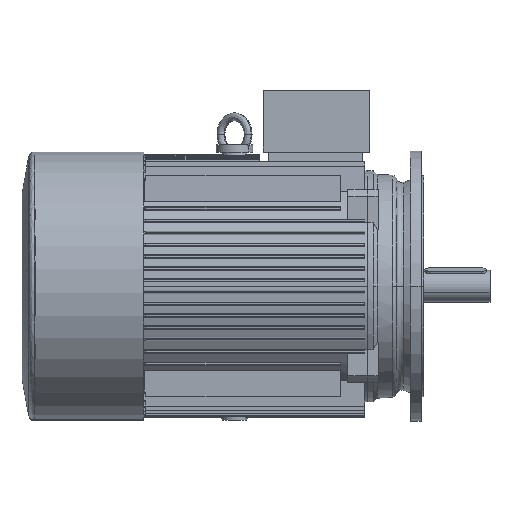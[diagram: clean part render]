
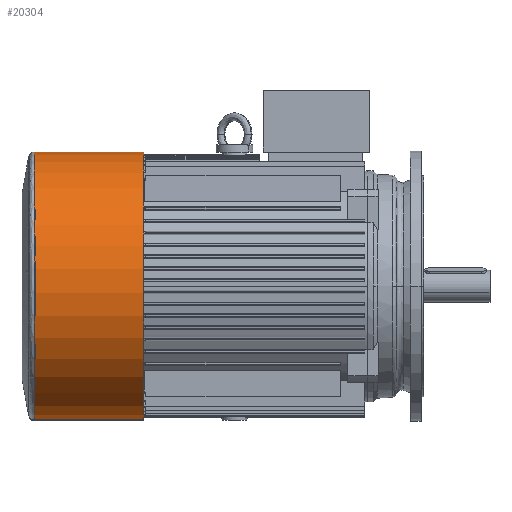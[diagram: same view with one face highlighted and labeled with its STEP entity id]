
A CAD part, top view. The second image highlights one B-rep face of the part: STEP entity #20304.
In plain terms, the highlighted cylindrical face has radius 273.5 mm (diameter 547 mm), a partial arc.
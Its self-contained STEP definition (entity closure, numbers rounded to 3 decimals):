
#3803 = CARTESIAN_POINT ( 'NONE',  ( 0., 0., 273.5 ) ) ;
#3805 = CARTESIAN_POINT ( 'NONE',  ( 222.777, 0., 273.5 ) ) ;
#3818 = CARTESIAN_POINT ( 'NONE',  ( 222.777, 0., -273.5 ) ) ;
#3860 = CARTESIAN_POINT ( 'NONE',  ( 0., 0., -273.5 ) ) ;
#4730 = CARTESIAN_POINT ( 'NONE',  ( -98.835, 0., 273.5 ) ) ;
#4753 = DIRECTION ( 'NONE',  ( -1., 0., 0. ) ) ;
#8936 = VECTOR ( 'NONE', #4753, 1000. ) ;
#8978 = LINE ( 'NONE', #4730, #8936 ) ;
#9127 = CIRCLE ( 'NONE', #20656, 273.5 ) ;
#9179 = LINE ( 'NONE', #15059, #9180 ) ;
#9180 = VECTOR ( 'NONE', #15070, 1000. ) ;
#9200 = CIRCLE ( 'NONE', #20714, 273.5 ) ;
#11030 = ORIENTED_EDGE ( 'NONE', *, *, #16360, .F. ) ;
#11037 = ORIENTED_EDGE ( 'NONE', *, *, #16757, .T. ) ;
#11082 = ORIENTED_EDGE ( 'NONE', *, *, #16820, .T. ) ;
#11131 = ORIENTED_EDGE ( 'NONE', *, *, #16763, .T. ) ;
#11838 = VERTEX_POINT ( 'NONE', #3805 ) ;
#11844 = VERTEX_POINT ( 'NONE', #3803 ) ;
#11860 = VERTEX_POINT ( 'NONE', #3818 ) ;
#11917 = VERTEX_POINT ( 'NONE', #3860 ) ;
#13791 = EDGE_LOOP ( 'NONE', ( #11082, #11037, #11131, #11030 ) ) ;
#15059 = CARTESIAN_POINT ( 'NONE',  ( -98.835, 0., -273.5 ) ) ;
#15065 = CARTESIAN_POINT ( 'NONE',  ( 0., 0., 0. ) ) ;
#15070 = DIRECTION ( 'NONE',  ( -1., 0., 0. ) ) ;
#15073 = DIRECTION ( 'NONE',  ( 1., 0., 0. ) ) ;
#15081 = DIRECTION ( 'NONE',  ( 0., 0., 1. ) ) ;
#15390 = CARTESIAN_POINT ( 'NONE',  ( 222.777, 0., 0. ) ) ;
#15398 = DIRECTION ( 'NONE',  ( -1., 0., 0. ) ) ;
#15432 = DIRECTION ( 'NONE',  ( 0., 0., 1. ) ) ;
#16360 = EDGE_CURVE ( 'NONE', #11838, #11844, #8978, .T. ) ;
#16376 = FACE_OUTER_BOUND ( 'NONE', #13791, .T. ) ;
#16472 = CYLINDRICAL_SURFACE ( 'NONE', #24104, 273.5 ) ;
#16757 = EDGE_CURVE ( 'NONE', #11860, #11917, #9179, .T. ) ;
#16763 = EDGE_CURVE ( 'NONE', #11917, #11844, #9127, .T. ) ;
#16820 = EDGE_CURVE ( 'NONE', #11838, #11860, #9200, .T. ) ;
#20304 = ADVANCED_FACE ( 'NONE', ( #16376 ), #16472, .T. ) ;
#20656 = AXIS2_PLACEMENT_3D ( 'NONE', #15065, #15073, #15081 ) ;
#20714 = AXIS2_PLACEMENT_3D ( 'NONE', #15390, #15398, #15432 ) ;
#24104 = AXIS2_PLACEMENT_3D ( 'NONE', #24370, #24335, #24325 ) ;
#24325 = DIRECTION ( 'NONE',  ( 0., 0., 1. ) ) ;
#24335 = DIRECTION ( 'NONE',  ( -1., 0., 0. ) ) ;
#24370 = CARTESIAN_POINT ( 'NONE',  ( -98.835, 0., 0. ) ) ;
